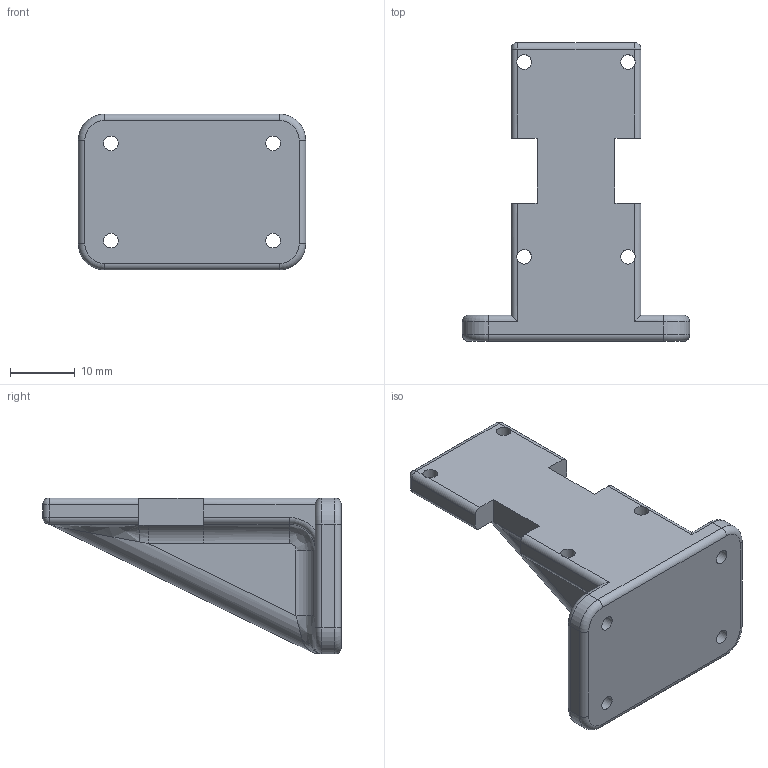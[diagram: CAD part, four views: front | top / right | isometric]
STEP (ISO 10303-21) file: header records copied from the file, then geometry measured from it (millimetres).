
FILE_DESCRIPTION(/* description */ (''),/* implementation_level */ '2;1');
FILE_NAME(/* name */ 'Gimbal base short v2.step',/* time_stamp */ '2025-07-16T17:55:25+08:00',/* author */ (''),/* organization */ (''),/* preprocessor_version */ 'ST-DEVELOPER v20.1',/* originating_system */ 'Autodesk Translation Framework v14.10.0.0',/* authorisation */ '');
FILE_SCHEMA (('AUTOMOTIVE_DESIGN { 1 0 10303 214 3 1 1 }'));
Length unit declared in the file: millimetre
Products named in the file (1): Gimbal base short
Bounding box: 35 x 46 x 24 mm (x, y, z)
Volume: 9346.9 mm3; surface area: 4428.9 mm2
Topology: 1 solids, 1 shells, 99 faces, 265 edges, 160 vertices
Faces by surface type: cylinder 43, plane 26, bspline 16, torus 10, sphere 4
Full cylindrical faces by diameter (mm): 2.25 x8
Entity records: 3593 total; most frequent: CARTESIAN_POINT 1093, ORIENTED_EDGE 530, DIRECTION 519, EDGE_CURVE 265, AXIS2_PLACEMENT_3D 205, VERTEX_POINT 160, LINE 109, VECTOR 109
